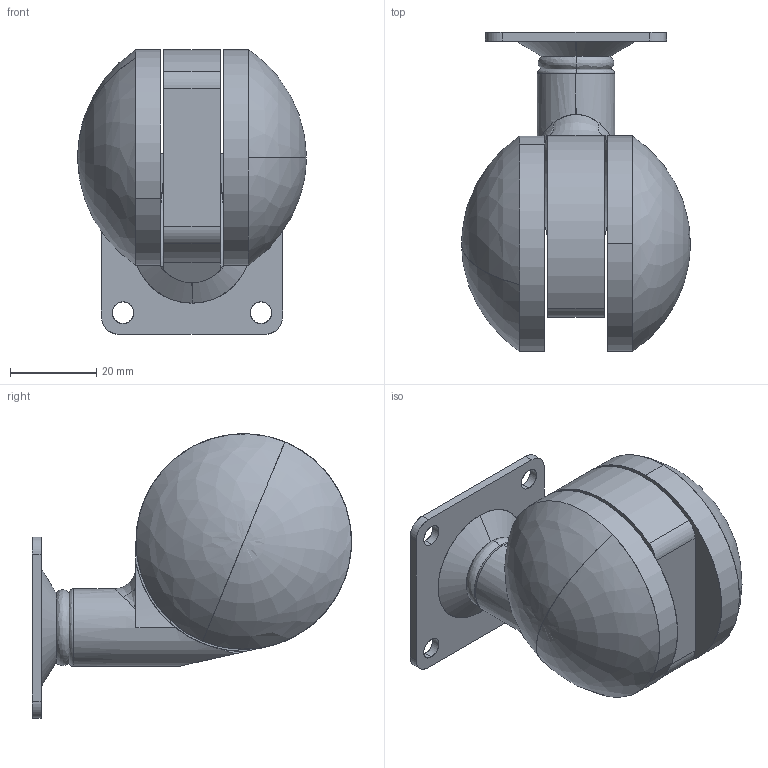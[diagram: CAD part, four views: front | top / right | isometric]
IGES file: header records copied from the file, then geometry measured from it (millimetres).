
Start section: SolidWorks IGES file using analytic representation for surfaces
Bounding box: 53 x 74 x 66 mm (x, y, z)
Surface area: 21904.7 mm2 (no closed solid volume)
Topology: 0 solids, 0 shells, 59 faces, 1022 edges, 1018 vertices
Faces by surface type: revolution 35, bspline 24
